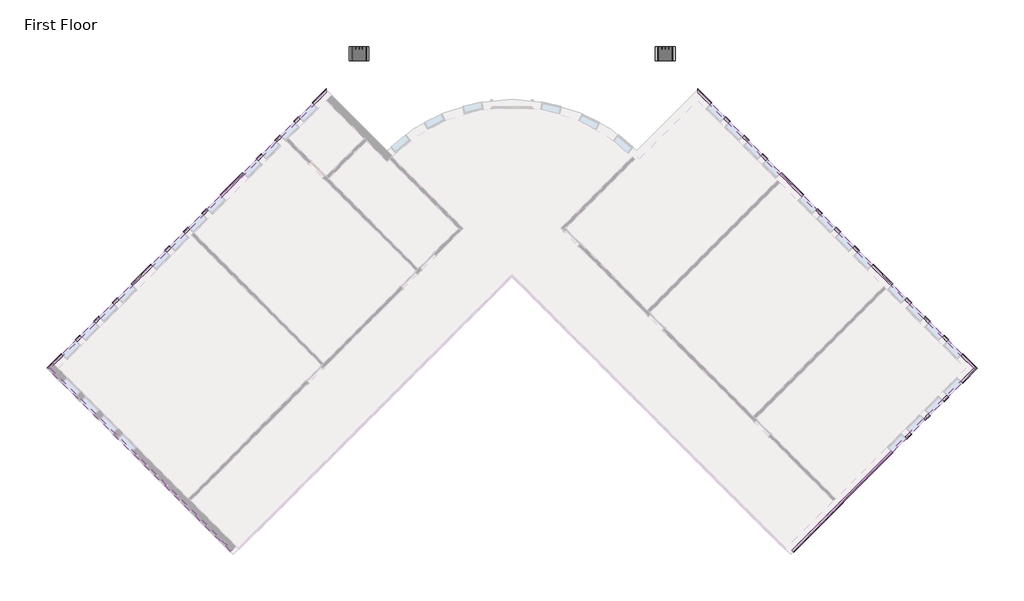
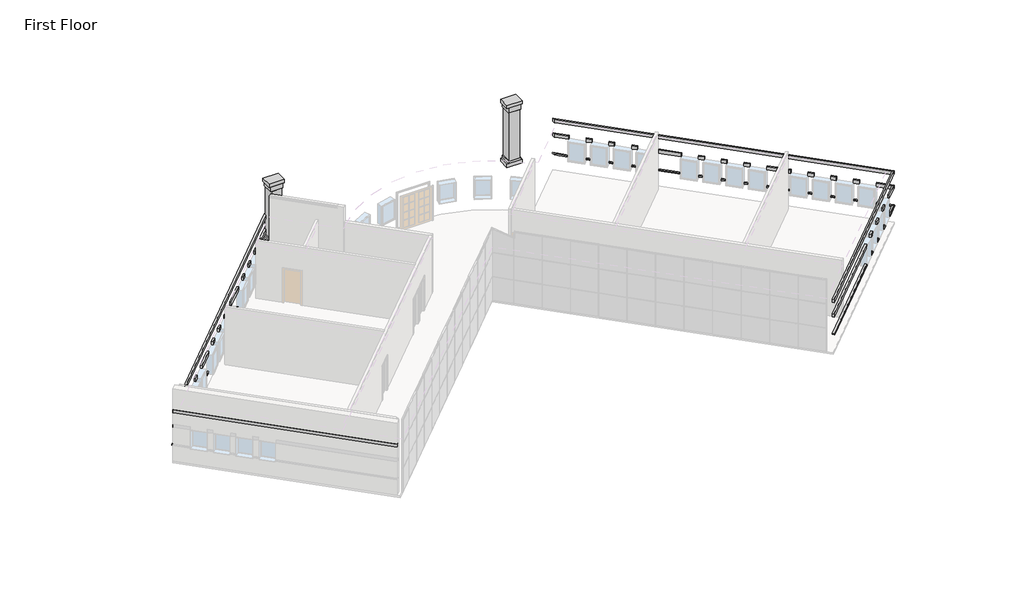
# One storey, part 5 of 5: 12 proxies.
"""IFC4 building model written with IfcOpenShell, lengths in millimetres."""

from ifc_helpers import new_model, si_unit, frame, origin, place, context, project, spatial, polyline, outline, extrude, faceted_brep, transform, mapped, element, save
from components import architecture_column_architecture_column_fcfab19c

model = new_model("IFC4")

# Units and contexts
model_context = context("Model", 3, world=origin())
ifc_project = project(units=[si_unit("LENGTHUNIT", "METRE", prefix="MILLI")], contexts=[model_context])

# Site, building, storey
site = spatial("IfcSite", under=ifc_project)
building = spatial("IfcBuilding", under=site)
storey = spatial("IfcBuildingStorey", under=building, Name="First Floor", Elevation=0.0)

# Proxies
placement = place(None, origin())
element("IfcBuildingElementProxy", 1, Name="Wall Sweeps", at=placement, inside=storey, context=model_context, shape_type="Brep", body=[
    faceted_brep([(5753.0175119, 11443.3655905, 1085.85), (5753.0175119, 11573.5793042, 1085.85), (5753.0175119, 11622.9707129, 1041.4), (5753.0175119, 11622.9707129, 1016.0), (5753.0175119, 11443.3655905, 1016.0), (6317.415551, 10878.9675514, 1085.85), (6317.415551, 10878.9675514, 1016.0), (6382.5224079, 10944.0744083, 1016.0), (6407.2181122, 10968.7701126, 1016.0), (6407.2181122, 10968.7701126, 1041.4), (6382.5224079, 10944.0744083, 1085.85), (5937.1127624, 11259.27034, 1085.85), (5937.1127624, 11259.27034, 1016.0)], [[[0, 1, 2, 3, 4]], [[5, 6, 7, 8, 9, 10]], [[1, 0, 11, 5, 10]], [[2, 1, 10, 9]], [[3, 2, 9, 8]], [[4, 3, 8, 7, 6, 12]], [[0, 4, 12, 6, 5, 11]]]),
    faceted_brep([(6963.9939917, 10232.3891107, 1085.85), (7029.1008486, 10297.4959676, 1085.85), (7053.7965529, 10322.1916719, 1041.4), (7053.7965529, 10322.1916719, 1016.0), (7029.1008486, 10297.4959676, 1016.0), (6963.9939917, 10232.3891107, 1016.0), (7179.5201386, 10016.8629638, 1085.85), (7179.5201386, 10016.8629638, 1016.0), (7244.6269955, 10081.9698207, 1016.0), (7269.3226998, 10106.665525, 1016.0), (7269.3226998, 10106.665525, 1041.4), (7244.6269955, 10081.9698207, 1085.85)], [[[0, 1, 2, 3, 4, 5]], [[6, 7, 8, 9, 10, 11]], [[1, 0, 6, 11]], [[2, 1, 11, 10]], [[3, 2, 10, 9]], [[5, 4, 3, 9, 8, 7]], [[0, 5, 7, 6]]]),
    faceted_brep([(7826.0985793, 9370.2845231, 1085.85), (7891.2054362, 9435.39138, 1085.85), (7915.9011405, 9460.0870843, 1041.4), (7915.9011405, 9460.0870843, 1016.0), (7891.2054362, 9435.39138, 1016.0), (7826.0985793, 9370.2845231, 1016.0), (8041.6247262, 9154.7583762, 1085.85), (8041.6247262, 9154.7583762, 1016.0), (8106.7315831, 9219.8652331, 1016.0), (8131.4272874, 9244.5609374, 1016.0), (8131.4272874, 9244.5609374, 1041.4), (8106.7315831, 9219.8652331, 1085.85)], [[[0, 1, 2, 3, 4, 5]], [[6, 7, 8, 9, 10, 11]], [[1, 0, 6, 11]], [[2, 1, 11, 10]], [[3, 2, 10, 9]], [[5, 4, 3, 9, 8, 7]], [[0, 5, 7, 6]]]),
    faceted_brep([(8688.2031669, 8508.1799355, 1085.85), (8753.3100238, 8573.2867923, 1085.85), (8778.0057282, 8597.9824967, 1041.4), (8778.0057282, 8597.9824967, 1016.0), (8753.3100238, 8573.2867923, 1016.0), (8688.2031669, 8508.1799355, 1016.0), (8903.7293139, 8292.6537886, 1085.85), (8903.7293139, 8292.6537886, 1016.0), (8968.8361707, 8357.7606454, 1016.0), (8993.5318751, 8382.4563498, 1016.0), (8993.5318751, 8382.4563498, 1041.4), (8968.8361707, 8357.7606454, 1085.85)], [[[0, 1, 2, 3, 4, 5]], [[6, 7, 8, 9, 10, 11]], [[1, 0, 6, 11]], [[2, 1, 11, 10]], [[3, 2, 10, 9]], [[5, 4, 3, 9, 8, 7]], [[0, 5, 7, 6]]]),
    faceted_brep([(9550.3077546, 7646.0753478, 1085.85), (9615.4146114, 7711.1822047, 1085.85), (9640.1103158, 7735.877909, 1041.4), (9640.1103158, 7735.877909, 1016.0), (9615.4146114, 7711.1822047, 1016.0), (9550.3077546, 7646.0753478, 1016.0), (10574.7639411, 6621.6191613, 1085.85), (10574.7639411, 6621.6191613, 1016.0), (10639.870798, 6686.7260182, 1016.0), (10664.5665023, 6711.4217225, 1016.0), (10664.5665023, 6711.4217225, 1041.4), (10639.870798, 6686.7260182, 1085.85)], [[[0, 1, 2, 3, 4, 5]], [[6, 7, 8, 9, 10, 11]], [[1, 0, 6, 11]], [[2, 1, 11, 10]], [[3, 2, 10, 9]], [[5, 4, 3, 9, 8, 7]], [[0, 5, 7, 6]]]),
    faceted_brep([(11221.3423818, 5975.0407206, 1085.85), (11286.4492387, 6040.1475775, 1085.85), (11311.144943, 6064.8432818, 1041.4), (11311.144943, 6064.8432818, 1016.0), (11286.4492387, 6040.1475775, 1016.0), (11221.3423818, 5975.0407206, 1016.0), (11436.8685287, 5759.5145737, 1085.85), (11436.8685287, 5759.5145737, 1016.0), (11501.9753856, 5824.6214306, 1016.0), (11526.6710899, 5849.3171349, 1016.0), (11526.6710899, 5849.3171349, 1041.4), (11501.9753856, 5824.6214306, 1085.85)], [[[0, 1, 2, 3, 4, 5]], [[6, 7, 8, 9, 10, 11]], [[1, 0, 6, 11]], [[2, 1, 11, 10]], [[3, 2, 10, 9]], [[5, 4, 3, 9, 8, 7]], [[0, 5, 7, 6]]]),
    faceted_brep([(12083.4469694, 5112.936133, 1085.85), (12148.5538263, 5178.0429899, 1085.85), (12173.2495306, 5202.7386942, 1041.4), (12173.2495306, 5202.7386942, 1016.0), (12148.5538263, 5178.0429899, 1016.0), (12083.4469694, 5112.936133, 1016.0), (12298.9731163, 4897.4099861, 1085.85), (12298.9731163, 4897.4099861, 1016.0), (12364.0799732, 4962.516843, 1016.0), (12388.7756775, 4987.2125473, 1016.0), (12388.7756775, 4987.2125473, 1041.4), (12364.0799732, 4962.516843, 1085.85)], [[[0, 1, 2, 3, 4, 5]], [[6, 7, 8, 9, 10, 11]], [[1, 0, 6, 11]], [[2, 1, 11, 10]], [[3, 2, 10, 9]], [[5, 4, 3, 9, 8, 7]], [[0, 5, 7, 6]]]),
    faceted_brep([(12945.551557, 4250.8315454, 1085.85), (13010.6584139, 4315.9384023, 1085.85), (13035.3541182, 4340.6341066, 1041.4), (13035.3541182, 4340.6341066, 1016.0), (13010.6584139, 4315.9384023, 1016.0), (12945.551557, 4250.8315454, 1016.0), (13161.0777039, 4035.3053985, 1085.85), (13161.0777039, 4035.3053985, 1016.0), (13226.1845608, 4100.4122553, 1016.0), (13250.8802652, 4125.1079597, 1016.0), (13250.8802652, 4125.1079597, 1041.4), (13226.1845608, 4100.4122553, 1085.85)], [[[0, 1, 2, 3, 4, 5]], [[6, 7, 8, 9, 10, 11]], [[1, 0, 6, 11]], [[2, 1, 11, 10]], [[3, 2, 10, 9]], [[5, 4, 3, 9, 8, 7]], [[0, 5, 7, 6]]]),
    faceted_brep([(13807.6561447, 3388.7269578, 1085.85), (13872.7630015, 3453.8338146, 1085.85), (13897.4587059, 3478.529519, 1041.4), (13897.4587059, 3478.529519, 1016.0), (13872.7630015, 3453.8338146, 1016.0), (13807.6561447, 3388.7269578, 1016.0), (14723.1708449, 2473.2122576, 1085.85), (14723.1708449, 2473.2122576, 1016.0), (14788.2777017, 2538.3191144, 1016.0), (14812.9734061, 2563.0148188, 1016.0), (14812.9734061, 2563.0148188, 1041.4), (14788.2777017, 2538.3191144, 1085.85)], [[[0, 1, 2, 3, 4, 5]], [[6, 7, 8, 9, 10, 11]], [[1, 0, 6, 11]], [[2, 1, 11, 10]], [[3, 2, 10, 9]], [[5, 4, 3, 9, 8, 7]], [[0, 5, 7, 6]]]),
    faceted_brep([(15369.7492856, 1826.6338168, 1085.85), (15434.8561424, 1891.7406737, 1085.85), (15459.5518468, 1916.4363781, 1041.4), (15459.5518468, 1916.4363781, 1016.0), (15434.8561424, 1891.7406737, 1016.0), (15369.7492856, 1826.6338168, 1016.0), (15585.2754325, 1611.1076699, 1085.85), (15585.2754325, 1611.1076699, 1016.0), (15650.3822894, 1676.2145268, 1016.0), (15675.0779937, 1700.9102311, 1016.0), (15675.0779937, 1700.9102311, 1041.4), (15650.3822894, 1676.2145268, 1085.85)], [[[0, 1, 2, 3, 4, 5]], [[6, 7, 8, 9, 10, 11]], [[1, 0, 6, 11]], [[2, 1, 11, 10]], [[3, 2, 10, 9]], [[5, 4, 3, 9, 8, 7]], [[0, 5, 7, 6]]]),
    faceted_brep([(16231.8538732, 964.5292292, 1085.85), (16296.9607301, 1029.6360861, 1085.85), (16321.6564344, 1054.3317904, 1041.4), (16321.6564344, 1054.3317904, 1016.0), (16296.9607301, 1029.6360861, 1016.0), (16231.8538732, 964.5292292, 1016.0), (16447.3800201, 749.0030823, 1085.85), (16447.3800201, 749.0030823, 1016.0), (16512.486877, 814.1099392, 1016.0), (16537.1825813, 838.8056435, 1016.0), (16537.1825813, 838.8056435, 1041.4), (16512.486877, 814.1099392, 1085.85)], [[[0, 1, 2, 3, 4, 5]], [[6, 7, 8, 9, 10, 11]], [[1, 0, 6, 11]], [[2, 1, 11, 10]], [[3, 2, 10, 9]], [[5, 4, 3, 9, 8, 7]], [[0, 5, 7, 6]]]),
    faceted_brep([(17093.9584608, 102.4246416, 1085.85), (17159.0653177, 167.5314985, 1085.85), (17183.761022, 192.2272028, 1041.4), (17183.761022, 192.2272028, 1016.0), (17159.0653177, 167.5314985, 1016.0), (17093.9584608, 102.4246416, 1016.0), (17309.4846077, -113.1015053, 1085.85), (17309.4846077, -113.1015053, 1016.0), (17374.5914646, -47.9946484, 1016.0), (17399.2871689, -23.2989441, 1016.0), (17399.2871689, -23.2989441, 1041.4), (17374.5914646, -47.9946484, 1085.85)], [[[0, 1, 2, 3, 4, 5]], [[6, 7, 8, 9, 10, 11]], [[1, 0, 6, 11]], [[2, 1, 11, 10]], [[3, 2, 10, 9]], [[5, 4, 3, 9, 8, 7]], [[0, 5, 7, 6]]]),
    faceted_brep([(17956.0630484, -759.679946, 1085.85), (18021.1699053, -694.5730891, 1085.85), (18045.8656096, -669.8773848, 1041.4), (18045.8656096, -669.8773848, 1016.0), (18021.1699053, -694.5730891, 1016.0), (17956.0630484, -759.679946, 1016.0), (18554.3726125, -1357.9895101, 1085.85), (18554.3726125, -1357.9895101, 1016.0), (18733.9777349, -1357.9895101, 1016.0), (18733.9777349, -1357.9895101, 1041.4), (18684.5863263, -1357.9895101, 1085.85)], [[[0, 1, 2, 3, 4, 5]], [[6, 7, 8, 9, 10]], [[1, 0, 6, 10]], [[2, 1, 10, 9]], [[3, 2, 9, 8]], [[5, 4, 3, 8, 7]], [[0, 5, 7, 6]]]),
])
element("IfcBuildingElementProxy", 2, Name="Wall Sweeps", at=placement, inside=storey, context=model_context, shape_type="Brep", body=[
    faceted_brep([(5753.0175119, 11573.5793042, 2336.8), (5753.0175119, 11573.5793042, 2133.6), (5753.0175119, 11443.3655905, 2133.6), (5753.0175119, 11443.3655905, 2336.8), (6382.5224079, 10944.0744083, 2336.8), (6317.415551, 10878.9675514, 2336.8), (6317.415551, 10878.9675514, 2133.6), (6382.5224079, 10944.0744083, 2133.6), (6002.2196193, 11324.3771969, 2336.8), (6002.2196193, 11324.3771969, 2133.6), (5937.1127624, 11259.27034, 2133.6), (5937.1127624, 11259.27034, 2336.8)], [[[0, 1, 2, 3]], [[4, 5, 6, 7]], [[1, 0, 8, 4, 7, 9]], [[2, 1, 9, 7, 6, 10]], [[3, 2, 10, 6, 5, 11]], [[0, 3, 11, 5, 4, 8]]]),
    faceted_brep([(7029.1008486, 10297.4959676, 2336.8), (7029.1008486, 10297.4959676, 2133.6), (6963.9939917, 10232.3891107, 2133.6), (6963.9939917, 10232.3891107, 2336.8), (7244.6269955, 10081.9698207, 2336.8), (7179.5201386, 10016.8629638, 2336.8), (7179.5201386, 10016.8629638, 2133.6), (7244.6269955, 10081.9698207, 2133.6)], [[[0, 1, 2, 3]], [[4, 5, 6, 7]], [[1, 0, 4, 7]], [[2, 1, 7, 6]], [[3, 2, 6, 5]], [[0, 3, 5, 4]]]),
    faceted_brep([(7891.2054362, 9435.39138, 2336.8), (7891.2054362, 9435.39138, 2133.6), (7826.0985793, 9370.2845231, 2133.6), (7826.0985793, 9370.2845231, 2336.8), (8106.7315831, 9219.8652331, 2336.8), (8041.6247262, 9154.7583762, 2336.8), (8041.6247262, 9154.7583762, 2133.6), (8106.7315831, 9219.8652331, 2133.6)], [[[0, 1, 2, 3]], [[4, 5, 6, 7]], [[1, 0, 4, 7]], [[2, 1, 7, 6]], [[3, 2, 6, 5]], [[0, 3, 5, 4]]]),
    faceted_brep([(8753.3100238, 8573.2867923, 2336.8), (8753.3100238, 8573.2867923, 2133.6), (8688.2031669, 8508.1799355, 2133.6), (8688.2031669, 8508.1799355, 2336.8), (8968.8361707, 8357.7606454, 2336.8), (8903.7293139, 8292.6537886, 2336.8), (8903.7293139, 8292.6537886, 2133.6), (8968.8361707, 8357.7606454, 2133.6)], [[[0, 1, 2, 3]], [[4, 5, 6, 7]], [[1, 0, 4, 7]], [[2, 1, 7, 6]], [[3, 2, 6, 5]], [[0, 3, 5, 4]]]),
    faceted_brep([(9615.4146114, 7711.1822047, 2336.8), (9615.4146114, 7711.1822047, 2133.6), (9550.3077546, 7646.0753478, 2133.6), (9550.3077546, 7646.0753478, 2336.8), (10639.870798, 6686.7260182, 2336.8), (10574.7639411, 6621.6191613, 2336.8), (10574.7639411, 6621.6191613, 2133.6), (10639.870798, 6686.7260182, 2133.6)], [[[0, 1, 2, 3]], [[4, 5, 6, 7]], [[1, 0, 4, 7]], [[2, 1, 7, 6]], [[3, 2, 6, 5]], [[0, 3, 5, 4]]]),
    faceted_brep([(11286.4492387, 6040.1475775, 2336.8), (11286.4492387, 6040.1475775, 2133.6), (11221.3423818, 5975.0407206, 2133.6), (11221.3423818, 5975.0407206, 2336.8), (11501.9753856, 5824.6214306, 2336.8), (11436.8685287, 5759.5145737, 2336.8), (11436.8685287, 5759.5145737, 2133.6), (11501.9753856, 5824.6214306, 2133.6)], [[[0, 1, 2, 3]], [[4, 5, 6, 7]], [[1, 0, 4, 7]], [[2, 1, 7, 6]], [[3, 2, 6, 5]], [[0, 3, 5, 4]]]),
    faceted_brep([(12148.5538263, 5178.0429899, 2336.8), (12148.5538263, 5178.0429899, 2133.6), (12083.4469694, 5112.936133, 2133.6), (12083.4469694, 5112.936133, 2336.8), (12364.0799732, 4962.516843, 2336.8), (12298.9731163, 4897.4099861, 2336.8), (12298.9731163, 4897.4099861, 2133.6), (12364.0799732, 4962.516843, 2133.6)], [[[0, 1, 2, 3]], [[4, 5, 6, 7]], [[1, 0, 4, 7]], [[2, 1, 7, 6]], [[3, 2, 6, 5]], [[0, 3, 5, 4]]]),
    faceted_brep([(13010.6584139, 4315.9384023, 2336.8), (13010.6584139, 4315.9384023, 2133.6), (12945.551557, 4250.8315454, 2133.6), (12945.551557, 4250.8315454, 2336.8), (13226.1845608, 4100.4122553, 2336.8), (13161.0777039, 4035.3053985, 2336.8), (13161.0777039, 4035.3053985, 2133.6), (13226.1845608, 4100.4122553, 2133.6)], [[[0, 1, 2, 3]], [[4, 5, 6, 7]], [[1, 0, 4, 7]], [[2, 1, 7, 6]], [[3, 2, 6, 5]], [[0, 3, 5, 4]]]),
    faceted_brep([(13872.7630015, 3453.8338146, 2336.8), (13872.7630015, 3453.8338146, 2133.6), (13807.6561447, 3388.7269578, 2133.6), (13807.6561447, 3388.7269578, 2336.8), (14788.2777017, 2538.3191144, 2336.8), (14723.1708449, 2473.2122576, 2336.8), (14723.1708449, 2473.2122576, 2133.6), (14788.2777017, 2538.3191144, 2133.6)], [[[0, 1, 2, 3]], [[4, 5, 6, 7]], [[1, 0, 4, 7]], [[2, 1, 7, 6]], [[3, 2, 6, 5]], [[0, 3, 5, 4]]]),
    faceted_brep([(15434.8561424, 1891.7406737, 2336.8), (15434.8561424, 1891.7406737, 2133.6), (15369.7492856, 1826.6338168, 2133.6), (15369.7492856, 1826.6338168, 2336.8), (15650.3822894, 1676.2145268, 2336.8), (15585.2754325, 1611.1076699, 2336.8), (15585.2754325, 1611.1076699, 2133.6), (15650.3822894, 1676.2145268, 2133.6)], [[[0, 1, 2, 3]], [[4, 5, 6, 7]], [[1, 0, 4, 7]], [[2, 1, 7, 6]], [[3, 2, 6, 5]], [[0, 3, 5, 4]]]),
    faceted_brep([(16296.9607301, 1029.6360861, 2336.8), (16296.9607301, 1029.6360861, 2133.6), (16231.8538732, 964.5292292, 2133.6), (16231.8538732, 964.5292292, 2336.8), (16512.486877, 814.1099392, 2336.8), (16447.3800201, 749.0030823, 2336.8), (16447.3800201, 749.0030823, 2133.6), (16512.486877, 814.1099392, 2133.6)], [[[0, 1, 2, 3]], [[4, 5, 6, 7]], [[1, 0, 4, 7]], [[2, 1, 7, 6]], [[3, 2, 6, 5]], [[0, 3, 5, 4]]]),
    faceted_brep([(17159.0653177, 167.5314985, 2336.8), (17159.0653177, 167.5314985, 2133.6), (17093.9584608, 102.4246416, 2133.6), (17093.9584608, 102.4246416, 2336.8), (17374.5914646, -47.9946484, 2336.8), (17309.4846077, -113.1015053, 2336.8), (17309.4846077, -113.1015053, 2133.6), (17374.5914646, -47.9946484, 2133.6)], [[[0, 1, 2, 3]], [[4, 5, 6, 7]], [[1, 0, 4, 7]], [[2, 1, 7, 6]], [[3, 2, 6, 5]], [[0, 3, 5, 4]]]),
    faceted_brep([(18021.1699053, -694.5730891, 2336.8), (18021.1699053, -694.5730891, 2133.6), (17956.0630484, -759.679946, 2133.6), (17956.0630484, -759.679946, 2336.8), (18684.5863263, -1357.9895101, 2336.8), (18554.3726125, -1357.9895101, 2336.8), (18554.3726125, -1357.9895101, 2133.6), (18684.5863263, -1357.9895101, 2133.6)], [[[0, 1, 2, 3]], [[4, 5, 6, 7]], [[1, 0, 4, 7]], [[2, 1, 7, 6]], [[3, 2, 6, 5]], [[0, 3, 5, 4]]]),
])
element("IfcBuildingElementProxy", 3, Name="Wall Sweeps", at=placement, inside=storey, context=model_context, shape_type="Brep", body=[
    faceted_brep([(5753.0175119, 11573.5793042, 3251.2), (5753.0175119, 11573.5793042, 3048.0), (5753.0175119, 11443.3655905, 3048.0), (5753.0175119, 11443.3655905, 3251.2), (18684.5863263, -1357.9895101, 3251.2), (18554.3726125, -1357.9895101, 3251.2), (18554.3726125, -1357.9895101, 3048.0), (18684.5863263, -1357.9895101, 3048.0), (6002.2196193, 11324.3771969, 3251.2), (6002.2196193, 11324.3771969, 3048.0), (5937.1127624, 11259.27034, 3048.0), (5937.1127624, 11259.27034, 3251.2)], [[[0, 1, 2, 3]], [[4, 5, 6, 7]], [[1, 0, 8, 4, 7, 9]], [[2, 1, 9, 7, 6, 10]], [[3, 2, 10, 6, 5, 11]], [[0, 3, 11, 5, 4, 8]]]),
])
element("IfcBuildingElementProxy", 4, Name="Wall Sweeps", at=placement, inside=storey, context=model_context, shape_type="Brep", body=[
    faceted_brep([(18554.3726125, -1357.9895101, 1085.85), (18684.5863263, -1357.9895101, 1085.85), (18733.9777349, -1357.9895101, 1041.4), (18733.9777349, -1357.9895101, 1016.0), (18554.3726125, -1357.9895101, 1016.0), (17956.0630484, -1956.2990742, 1085.85), (17956.0630484, -1956.2990742, 1016.0), (18021.1699053, -2021.405931, 1016.0), (18045.8656096, -2046.1016354, 1016.0), (18045.8656096, -2046.1016354, 1041.4), (18021.1699053, -2021.405931, 1085.85), (18370.277362, -1542.0847606, 1085.85), (18370.277362, -1542.0847606, 1016.0)], [[[0, 1, 2, 3, 4]], [[5, 6, 7, 8, 9, 10]], [[1, 0, 11, 5, 10]], [[2, 1, 10, 9]], [[3, 2, 9, 8]], [[4, 3, 8, 7, 6, 12]], [[0, 4, 12, 6, 5, 11]]]),
    faceted_brep([(17309.4846077, -2602.8775149, 1085.85), (17374.5914646, -2667.9843718, 1085.85), (17399.2871689, -2692.6800761, 1041.4), (17399.2871689, -2692.6800761, 1016.0), (17374.5914646, -2667.9843718, 1016.0), (17309.4846077, -2602.8775149, 1016.0), (17093.9584608, -2818.4036618, 1085.85), (17093.9584608, -2818.4036618, 1016.0), (17159.0653177, -2883.5105187, 1016.0), (17183.761022, -2908.206223, 1016.0), (17183.761022, -2908.206223, 1041.4), (17159.0653177, -2883.5105187, 1085.85)], [[[0, 1, 2, 3, 4, 5]], [[6, 7, 8, 9, 10, 11]], [[1, 0, 6, 11]], [[2, 1, 11, 10]], [[3, 2, 10, 9]], [[5, 4, 3, 9, 8, 7]], [[0, 5, 7, 6]]]),
    faceted_brep([(16447.3800201, -3464.9821025, 1085.85), (16512.486877, -3530.0889594, 1085.85), (16537.1825813, -3554.7846637, 1041.4), (16537.1825813, -3554.7846637, 1016.0), (16512.486877, -3530.0889594, 1016.0), (16447.3800201, -3464.9821025, 1016.0), (16231.8538732, -3680.5082494, 1085.85), (16231.8538732, -3680.5082494, 1016.0), (16296.9607301, -3745.6151063, 1016.0), (16321.6564344, -3770.3108106, 1016.0), (16321.6564344, -3770.3108106, 1041.4), (16296.9607301, -3745.6151063, 1085.85)], [[[0, 1, 2, 3, 4, 5]], [[6, 7, 8, 9, 10, 11]], [[1, 0, 6, 11]], [[2, 1, 11, 10]], [[3, 2, 10, 9]], [[5, 4, 3, 9, 8, 7]], [[0, 5, 7, 6]]]),
    faceted_brep([(15585.2754325, -4327.0866901, 1085.85), (15650.3822894, -4392.193547, 1085.85), (15675.0779937, -4416.8892513, 1041.4), (15675.0779937, -4416.8892513, 1016.0), (15650.3822894, -4392.193547, 1016.0), (15585.2754325, -4327.0866901, 1016.0), (15369.7492856, -4542.612837, 1085.85), (15369.7492856, -4542.612837, 1016.0), (15434.8561424, -4607.7196939, 1016.0), (15459.5518468, -4632.4153982, 1016.0), (15459.5518468, -4632.4153982, 1041.4), (15434.8561424, -4607.7196939, 1085.85)], [[[0, 1, 2, 3, 4, 5]], [[6, 7, 8, 9, 10, 11]], [[1, 0, 6, 11]], [[2, 1, 11, 10]], [[3, 2, 10, 9]], [[5, 4, 3, 9, 8, 7]], [[0, 5, 7, 6]]]),
    faceted_brep([(14723.1708449, -5189.1912777, 1085.85), (14788.2777017, -5254.2981346, 1085.85), (14812.9734061, -5278.993839, 1041.4), (14812.9734061, -5278.993839, 1016.0), (14788.2777017, -5254.2981346, 1016.0), (14723.1708449, -5189.1912777, 1016.0), (10123.0346468, -9789.3274758, 1085.85), (10123.0346468, -9789.3274758, 1016.0), (10188.1415037, -9854.4343326, 1016.0), (10212.837208, -9879.130037, 1016.0), (10212.837208, -9879.130037, 1041.4), (10188.1415037, -9854.4343326, 1085.85)], [[[0, 1, 2, 3, 4, 5]], [[6, 7, 8, 9, 10, 11]], [[1, 0, 6, 11]], [[2, 1, 11, 10]], [[3, 2, 10, 9]], [[5, 4, 3, 9, 8, 7]], [[0, 5, 7, 6]]]),
])
element("IfcBuildingElementProxy", 5, Name="Wall Sweeps", at=placement, inside=storey, context=model_context, shape_type="Brep", body=[
    faceted_brep([(18684.5863263, -1357.9895101, 2336.8), (18684.5863263, -1357.9895101, 2133.6), (18554.3726125, -1357.9895101, 2133.6), (18554.3726125, -1357.9895101, 2336.8), (18021.1699053, -2021.405931, 2336.8), (17956.0630484, -1956.2990742, 2336.8), (17956.0630484, -1956.2990742, 2133.6), (18021.1699053, -2021.405931, 2133.6), (18435.3842189, -1607.1916175, 2336.8), (18435.3842189, -1607.1916175, 2133.6), (18370.277362, -1542.0847606, 2133.6), (18370.277362, -1542.0847606, 2336.8)], [[[0, 1, 2, 3]], [[4, 5, 6, 7]], [[1, 0, 8, 4, 7, 9]], [[2, 1, 9, 7, 6, 10]], [[3, 2, 10, 6, 5, 11]], [[0, 3, 11, 5, 4, 8]]]),
    faceted_brep([(17374.5914646, -2667.9843718, 2336.8), (17374.5914646, -2667.9843718, 2133.6), (17309.4846077, -2602.8775149, 2133.6), (17309.4846077, -2602.8775149, 2336.8), (17159.0653177, -2883.5105187, 2336.8), (17093.9584608, -2818.4036618, 2336.8), (17093.9584608, -2818.4036618, 2133.6), (17159.0653177, -2883.5105187, 2133.6)], [[[0, 1, 2, 3]], [[4, 5, 6, 7]], [[1, 0, 4, 7]], [[2, 1, 7, 6]], [[3, 2, 6, 5]], [[0, 3, 5, 4]]]),
    faceted_brep([(16512.486877, -3530.0889594, 2336.8), (16512.486877, -3530.0889594, 2133.6), (16447.3800201, -3464.9821025, 2133.6), (16447.3800201, -3464.9821025, 2336.8), (16296.9607301, -3745.6151063, 2336.8), (16231.8538732, -3680.5082494, 2336.8), (16231.8538732, -3680.5082494, 2133.6), (16296.9607301, -3745.6151063, 2133.6)], [[[0, 1, 2, 3]], [[4, 5, 6, 7]], [[1, 0, 4, 7]], [[2, 1, 7, 6]], [[3, 2, 6, 5]], [[0, 3, 5, 4]]]),
    faceted_brep([(15650.3822894, -4392.193547, 2336.8), (15650.3822894, -4392.193547, 2133.6), (15585.2754325, -4327.0866901, 2133.6), (15585.2754325, -4327.0866901, 2336.8), (15434.8561424, -4607.7196939, 2336.8), (15369.7492856, -4542.612837, 2336.8), (15369.7492856, -4542.612837, 2133.6), (15434.8561424, -4607.7196939, 2133.6)], [[[0, 1, 2, 3]], [[4, 5, 6, 7]], [[1, 0, 4, 7]], [[2, 1, 7, 6]], [[3, 2, 6, 5]], [[0, 3, 5, 4]]]),
    faceted_brep([(14788.2777017, -5254.2981346, 2336.8), (14788.2777017, -5254.2981346, 2133.6), (14723.1708449, -5189.1912777, 2133.6), (14723.1708449, -5189.1912777, 2336.8), (10188.1415037, -9854.4343326, 2336.8), (10123.0346468, -9789.3274758, 2336.8), (10123.0346468, -9789.3274758, 2133.6), (10188.1415037, -9854.4343326, 2133.6)], [[[0, 1, 2, 3]], [[4, 5, 6, 7]], [[1, 0, 4, 7]], [[2, 1, 7, 6]], [[3, 2, 6, 5]], [[0, 3, 5, 4]]]),
])
element("IfcBuildingElementProxy", 6, Name="Wall Sweeps", at=placement, inside=storey, context=model_context, shape_type="Brep", body=[
    faceted_brep([(18684.5863263, -1357.9895101, 3251.2), (18684.5863263, -1357.9895101, 3048.0), (18554.3726125, -1357.9895101, 3048.0), (18554.3726125, -1357.9895101, 3251.2), (10188.1415037, -9854.4343326, 3251.2), (10123.0346468, -9789.3274758, 3251.2), (10123.0346468, -9789.3274758, 3048.0), (10188.1415037, -9854.4343326, 3048.0), (18435.3842189, -1607.1916175, 3251.2), (18435.3842189, -1607.1916175, 3048.0), (18370.277362, -1542.0847606, 3048.0), (18370.277362, -1542.0847606, 3251.2)], [[[0, 1, 2, 3]], [[4, 5, 6, 7]], [[1, 0, 8, 4, 7, 9]], [[2, 1, 9, 7, 6, 10]], [[3, 2, 10, 6, 5, 11]], [[0, 3, 11, 5, 4, 8]]]),
])
element("IfcBuildingElementProxy", 7, Name="Wall Sweeps", at=placement, inside=storey, context=model_context, shape_type="SweptSolid", body=[
    extrude(outline(polyline([(-15859.0913754, -9789.3274758), (-15924.1982323, -9854.4343326), (-24420.6430549, -1357.9895101), (-24290.4293411, -1357.9895101), (-15859.0913754, -9789.3274758)])), frame((0.0, 0.0, 3048.0), z_axis=(0.0, 0.0, 1.0), x_axis=(1.0, 0.0, 0.0)), (0.0, 0.0, 1.0), 203.2),
])
element("IfcBuildingElementProxy", 8, Name="Wall Sweeps", at=placement, inside=storey, context=model_context, shape_type="Brep", body=[
    faceted_brep([(-24290.4293411, -1357.9895101, 1085.85), (-24420.6430549, -1357.9895101, 1085.85), (-24470.0344635, -1357.9895101, 1041.4), (-24470.0344635, -1357.9895101, 1016.0), (-24290.4293411, -1357.9895101, 1016.0), (-23692.119777, -759.679946, 1085.85), (-23692.119777, -759.679946, 1016.0), (-23757.2266339, -694.5730891, 1016.0), (-23781.9223383, -669.8773848, 1016.0), (-23781.9223383, -669.8773848, 1041.4), (-23757.2266339, -694.5730891, 1085.85), (-24106.3340906, -1173.8942596, 1085.85), (-24106.3340906, -1173.8942596, 1016.0)], [[[0, 1, 2, 3, 4]], [[5, 6, 7, 8, 9, 10]], [[1, 0, 11, 5, 10]], [[2, 1, 10, 9]], [[3, 2, 9, 8]], [[4, 3, 8, 7, 6, 12]], [[0, 4, 12, 6, 5, 11]]]),
    faceted_brep([(-23045.5413363, -113.1015053, 1085.85), (-23110.6481932, -47.9946484, 1085.85), (-23135.3438975, -23.2989441, 1041.4), (-23135.3438975, -23.2989441, 1016.0), (-23110.6481932, -47.9946484, 1016.0), (-23045.5413363, -113.1015053, 1016.0), (-22830.0151894, 102.4246416, 1085.85), (-22830.0151894, 102.4246416, 1016.0), (-22895.1220463, 167.5314985, 1016.0), (-22919.8177506, 192.2272028, 1016.0), (-22919.8177506, 192.2272028, 1041.4), (-22895.1220463, 167.5314985, 1085.85)], [[[0, 1, 2, 3, 4, 5]], [[6, 7, 8, 9, 10, 11]], [[1, 0, 6, 11]], [[2, 1, 11, 10]], [[3, 2, 10, 9]], [[5, 4, 3, 9, 8, 7]], [[0, 5, 7, 6]]]),
    faceted_brep([(-22183.4367487, 749.0030823, 1085.85), (-22248.5436056, 814.1099392, 1085.85), (-22273.2393099, 838.8056435, 1041.4), (-22273.2393099, 838.8056435, 1016.0), (-22248.5436056, 814.1099392, 1016.0), (-22183.4367487, 749.0030823, 1016.0), (-21967.9106018, 964.5292292, 1085.85), (-21967.9106018, 964.5292292, 1016.0), (-22033.0174587, 1029.6360861, 1016.0), (-22057.713163, 1054.3317904, 1016.0), (-22057.713163, 1054.3317904, 1041.4), (-22033.0174587, 1029.6360861, 1085.85)], [[[0, 1, 2, 3, 4, 5]], [[6, 7, 8, 9, 10, 11]], [[1, 0, 6, 11]], [[2, 1, 11, 10]], [[3, 2, 10, 9]], [[5, 4, 3, 9, 8, 7]], [[0, 5, 7, 6]]]),
    faceted_brep([(-21321.3321611, 1611.1076699, 1085.85), (-21386.439018, 1676.2145268, 1085.85), (-21411.1347223, 1700.9102311, 1041.4), (-21411.1347223, 1700.9102311, 1016.0), (-21386.439018, 1676.2145268, 1016.0), (-21321.3321611, 1611.1076699, 1016.0), (-21105.8060142, 1826.6338168, 1085.85), (-21105.8060142, 1826.6338168, 1016.0), (-21170.9128711, 1891.7406737, 1016.0), (-21195.6085754, 1916.4363781, 1016.0), (-21195.6085754, 1916.4363781, 1041.4), (-21170.9128711, 1891.7406737, 1085.85)], [[[0, 1, 2, 3, 4, 5]], [[6, 7, 8, 9, 10, 11]], [[1, 0, 6, 11]], [[2, 1, 11, 10]], [[3, 2, 10, 9]], [[5, 4, 3, 9, 8, 7]], [[0, 5, 7, 6]]]),
    faceted_brep([(-20459.2275735, 2473.2122576, 1085.85), (-20524.3344303, 2538.3191144, 1085.85), (-20549.0301347, 2563.0148188, 1041.4), (-20549.0301347, 2563.0148188, 1016.0), (-20524.3344303, 2538.3191144, 1016.0), (-20459.2275735, 2473.2122576, 1016.0), (-19543.7128733, 3388.7269578, 1085.85), (-19543.7128733, 3388.7269578, 1016.0), (-19608.8197301, 3453.8338146, 1016.0), (-19633.5154345, 3478.529519, 1016.0), (-19633.5154345, 3478.529519, 1041.4), (-19608.8197301, 3453.8338146, 1085.85)], [[[0, 1, 2, 3, 4, 5]], [[6, 7, 8, 9, 10, 11]], [[1, 0, 6, 11]], [[2, 1, 11, 10]], [[3, 2, 10, 9]], [[5, 4, 3, 9, 8, 7]], [[0, 5, 7, 6]]]),
    faceted_brep([(-18897.1344326, 4035.3053985, 1085.85), (-18962.2412894, 4100.4122553, 1085.85), (-18986.9369938, 4125.1079597, 1041.4), (-18986.9369938, 4125.1079597, 1016.0), (-18962.2412894, 4100.4122553, 1016.0), (-18897.1344326, 4035.3053985, 1016.0), (-18681.6082856, 4250.8315454, 1085.85), (-18681.6082856, 4250.8315454, 1016.0), (-18746.7151425, 4315.9384023, 1016.0), (-18771.4108469, 4340.6341066, 1016.0), (-18771.4108469, 4340.6341066, 1041.4), (-18746.7151425, 4315.9384023, 1085.85)], [[[0, 1, 2, 3, 4, 5]], [[6, 7, 8, 9, 10, 11]], [[1, 0, 6, 11]], [[2, 1, 11, 10]], [[3, 2, 10, 9]], [[5, 4, 3, 9, 8, 7]], [[0, 5, 7, 6]]]),
    faceted_brep([(-18035.0298449, 4897.4099861, 1085.85), (-18100.1367018, 4962.516843, 1085.85), (-18124.8324061, 4987.2125473, 1041.4), (-18124.8324061, 4987.2125473, 1016.0), (-18100.1367018, 4962.516843, 1016.0), (-18035.0298449, 4897.4099861, 1016.0), (-17819.503698, 5112.936133, 1085.85), (-17819.503698, 5112.936133, 1016.0), (-17884.6105549, 5178.0429899, 1016.0), (-17909.3062592, 5202.7386942, 1016.0), (-17909.3062592, 5202.7386942, 1041.4), (-17884.6105549, 5178.0429899, 1085.85)], [[[0, 1, 2, 3, 4, 5]], [[6, 7, 8, 9, 10, 11]], [[1, 0, 6, 11]], [[2, 1, 11, 10]], [[3, 2, 10, 9]], [[5, 4, 3, 9, 8, 7]], [[0, 5, 7, 6]]]),
    faceted_brep([(-17172.9252573, 5759.5145737, 1085.85), (-17238.0321142, 5824.6214306, 1085.85), (-17262.7278185, 5849.3171349, 1041.4), (-17262.7278185, 5849.3171349, 1016.0), (-17238.0321142, 5824.6214306, 1016.0), (-17172.9252573, 5759.5145737, 1016.0), (-16957.3991104, 5975.0407206, 1085.85), (-16957.3991104, 5975.0407206, 1016.0), (-17022.5059673, 6040.1475775, 1016.0), (-17047.2016716, 6064.8432818, 1016.0), (-17047.2016716, 6064.8432818, 1041.4), (-17022.5059673, 6040.1475775, 1085.85)], [[[0, 1, 2, 3, 4, 5]], [[6, 7, 8, 9, 10, 11]], [[1, 0, 6, 11]], [[2, 1, 11, 10]], [[3, 2, 10, 9]], [[5, 4, 3, 9, 8, 7]], [[0, 5, 7, 6]]]),
    faceted_brep([(-16310.8206697, 6621.6191613, 1085.85), (-16375.9275266, 6686.7260182, 1085.85), (-16400.6232309, 6711.4217225, 1041.4), (-16400.6232309, 6711.4217225, 1016.0), (-16375.9275266, 6686.7260182, 1016.0), (-16310.8206697, 6621.6191613, 1016.0), (-15286.3644832, 7646.0753478, 1085.85), (-15286.3644832, 7646.0753478, 1016.0), (-15351.4713401, 7711.1822047, 1016.0), (-15376.1670444, 7735.877909, 1016.0), (-15376.1670444, 7735.877909, 1041.4), (-15351.4713401, 7711.1822047, 1085.85)], [[[0, 1, 2, 3, 4, 5]], [[6, 7, 8, 9, 10, 11]], [[1, 0, 6, 11]], [[2, 1, 11, 10]], [[3, 2, 10, 9]], [[5, 4, 3, 9, 8, 7]], [[0, 5, 7, 6]]]),
    faceted_brep([(-14639.7860425, 8292.6537886, 1085.85), (-14704.8928993, 8357.7606454, 1085.85), (-14729.5886037, 8382.4563498, 1041.4), (-14729.5886037, 8382.4563498, 1016.0), (-14704.8928993, 8357.7606454, 1016.0), (-14639.7860425, 8292.6537886, 1016.0), (-14424.2598956, 8508.1799355, 1085.85), (-14424.2598956, 8508.1799355, 1016.0), (-14489.3667524, 8573.2867923, 1016.0), (-14514.0624568, 8597.9824967, 1016.0), (-14514.0624568, 8597.9824967, 1041.4), (-14489.3667524, 8573.2867923, 1085.85)], [[[0, 1, 2, 3, 4, 5]], [[6, 7, 8, 9, 10, 11]], [[1, 0, 6, 11]], [[2, 1, 11, 10]], [[3, 2, 10, 9]], [[5, 4, 3, 9, 8, 7]], [[0, 5, 7, 6]]]),
    faceted_brep([(-13777.6814548, 9154.7583762, 1085.85), (-13842.7883117, 9219.8652331, 1085.85), (-13867.4840161, 9244.5609374, 1041.4), (-13867.4840161, 9244.5609374, 1016.0), (-13842.7883117, 9219.8652331, 1016.0), (-13777.6814548, 9154.7583762, 1016.0), (-13562.1553079, 9370.2845231, 1085.85), (-13562.1553079, 9370.2845231, 1016.0), (-13627.2621648, 9435.39138, 1016.0), (-13651.9578691, 9460.0870843, 1016.0), (-13651.9578691, 9460.0870843, 1041.4), (-13627.2621648, 9435.39138, 1085.85)], [[[0, 1, 2, 3, 4, 5]], [[6, 7, 8, 9, 10, 11]], [[1, 0, 6, 11]], [[2, 1, 11, 10]], [[3, 2, 10, 9]], [[5, 4, 3, 9, 8, 7]], [[0, 5, 7, 6]]]),
    faceted_brep([(-12915.5768672, 10016.8629638, 1085.85), (-12980.6837241, 10081.9698207, 1085.85), (-13005.3794284, 10106.665525, 1041.4), (-13005.3794284, 10106.665525, 1016.0), (-12980.6837241, 10081.9698207, 1016.0), (-12915.5768672, 10016.8629638, 1016.0), (-12700.0507203, 10232.3891107, 1085.85), (-12700.0507203, 10232.3891107, 1016.0), (-12765.1575772, 10297.4959676, 1016.0), (-12789.8532815, 10322.1916719, 1016.0), (-12789.8532815, 10322.1916719, 1041.4), (-12765.1575772, 10297.4959676, 1085.85)], [[[0, 1, 2, 3, 4, 5]], [[6, 7, 8, 9, 10, 11]], [[1, 0, 6, 11]], [[2, 1, 11, 10]], [[3, 2, 10, 9]], [[5, 4, 3, 9, 8, 7]], [[0, 5, 7, 6]]]),
    faceted_brep([(-12053.4722796, 10878.9675514, 1085.85), (-12118.5791365, 10944.0744083, 1085.85), (-12143.2748408, 10968.7701126, 1041.4), (-12143.2748408, 10968.7701126, 1016.0), (-12118.5791365, 10944.0744083, 1016.0), (-12053.4722796, 10878.9675514, 1016.0), (-11489.0742405, 11443.3655905, 1085.85), (-11489.0742405, 11443.3655905, 1016.0), (-11489.0742405, 11622.9707129, 1016.0), (-11489.0742405, 11622.9707129, 1041.4), (-11489.0742405, 11573.5793042, 1085.85)], [[[0, 1, 2, 3, 4, 5]], [[6, 7, 8, 9, 10]], [[1, 0, 6, 10]], [[2, 1, 10, 9]], [[3, 2, 9, 8]], [[5, 4, 3, 8, 7]], [[0, 5, 7, 6]]]),
])
element("IfcBuildingElementProxy", 9, Name="Wall Sweeps", at=placement, inside=storey, context=model_context, shape_type="Brep", body=[
    faceted_brep([(-24420.6430549, -1357.9895101, 2336.8), (-24420.6430549, -1357.9895101, 2133.6), (-24290.4293411, -1357.9895101, 2133.6), (-24290.4293411, -1357.9895101, 2336.8), (-23757.2266339, -694.5730891, 2336.8), (-23692.119777, -759.679946, 2336.8), (-23692.119777, -759.679946, 2133.6), (-23757.2266339, -694.5730891, 2133.6), (-24171.4409475, -1108.7874027, 2336.8), (-24171.4409475, -1108.7874027, 2133.6), (-24106.3340906, -1173.8942596, 2133.6), (-24106.3340906, -1173.8942596, 2336.8)], [[[0, 1, 2, 3]], [[4, 5, 6, 7]], [[1, 0, 8, 4, 7, 9]], [[2, 1, 9, 7, 6, 10]], [[3, 2, 10, 6, 5, 11]], [[0, 3, 11, 5, 4, 8]]]),
    faceted_brep([(-23110.6481932, -47.9946484, 2336.8), (-23110.6481932, -47.9946484, 2133.6), (-23045.5413363, -113.1015053, 2133.6), (-23045.5413363, -113.1015053, 2336.8), (-22895.1220463, 167.5314985, 2336.8), (-22830.0151894, 102.4246416, 2336.8), (-22830.0151894, 102.4246416, 2133.6), (-22895.1220463, 167.5314985, 2133.6)], [[[0, 1, 2, 3]], [[4, 5, 6, 7]], [[1, 0, 4, 7]], [[2, 1, 7, 6]], [[3, 2, 6, 5]], [[0, 3, 5, 4]]]),
    faceted_brep([(-22248.5436056, 814.1099392, 2336.8), (-22248.5436056, 814.1099392, 2133.6), (-22183.4367487, 749.0030823, 2133.6), (-22183.4367487, 749.0030823, 2336.8), (-22033.0174587, 1029.6360861, 2336.8), (-21967.9106018, 964.5292292, 2336.8), (-21967.9106018, 964.5292292, 2133.6), (-22033.0174587, 1029.6360861, 2133.6)], [[[0, 1, 2, 3]], [[4, 5, 6, 7]], [[1, 0, 4, 7]], [[2, 1, 7, 6]], [[3, 2, 6, 5]], [[0, 3, 5, 4]]]),
    faceted_brep([(-21386.439018, 1676.2145268, 2336.8), (-21386.439018, 1676.2145268, 2133.6), (-21321.3321611, 1611.1076699, 2133.6), (-21321.3321611, 1611.1076699, 2336.8), (-21170.9128711, 1891.7406737, 2336.8), (-21105.8060142, 1826.6338168, 2336.8), (-21105.8060142, 1826.6338168, 2133.6), (-21170.9128711, 1891.7406737, 2133.6)], [[[0, 1, 2, 3]], [[4, 5, 6, 7]], [[1, 0, 4, 7]], [[2, 1, 7, 6]], [[3, 2, 6, 5]], [[0, 3, 5, 4]]]),
    faceted_brep([(-20524.3344303, 2538.3191144, 2336.8), (-20524.3344303, 2538.3191144, 2133.6), (-20459.2275735, 2473.2122576, 2133.6), (-20459.2275735, 2473.2122576, 2336.8), (-19608.8197301, 3453.8338146, 2336.8), (-19543.7128733, 3388.7269578, 2336.8), (-19543.7128733, 3388.7269578, 2133.6), (-19608.8197301, 3453.8338146, 2133.6)], [[[0, 1, 2, 3]], [[4, 5, 6, 7]], [[1, 0, 4, 7]], [[2, 1, 7, 6]], [[3, 2, 6, 5]], [[0, 3, 5, 4]]]),
    faceted_brep([(-18962.2412894, 4100.4122553, 2336.8), (-18962.2412894, 4100.4122553, 2133.6), (-18897.1344326, 4035.3053985, 2133.6), (-18897.1344326, 4035.3053985, 2336.8), (-18746.7151425, 4315.9384023, 2336.8), (-18681.6082856, 4250.8315454, 2336.8), (-18681.6082856, 4250.8315454, 2133.6), (-18746.7151425, 4315.9384023, 2133.6)], [[[0, 1, 2, 3]], [[4, 5, 6, 7]], [[1, 0, 4, 7]], [[2, 1, 7, 6]], [[3, 2, 6, 5]], [[0, 3, 5, 4]]]),
    faceted_brep([(-18100.1367018, 4962.516843, 2336.8), (-18100.1367018, 4962.516843, 2133.6), (-18035.0298449, 4897.4099861, 2133.6), (-18035.0298449, 4897.4099861, 2336.8), (-17884.6105549, 5178.0429899, 2336.8), (-17819.503698, 5112.936133, 2336.8), (-17819.503698, 5112.936133, 2133.6), (-17884.6105549, 5178.0429899, 2133.6)], [[[0, 1, 2, 3]], [[4, 5, 6, 7]], [[1, 0, 4, 7]], [[2, 1, 7, 6]], [[3, 2, 6, 5]], [[0, 3, 5, 4]]]),
    faceted_brep([(-17238.0321142, 5824.6214306, 2336.8), (-17238.0321142, 5824.6214306, 2133.6), (-17172.9252573, 5759.5145737, 2133.6), (-17172.9252573, 5759.5145737, 2336.8), (-17022.5059673, 6040.1475775, 2336.8), (-16957.3991104, 5975.0407206, 2336.8), (-16957.3991104, 5975.0407206, 2133.6), (-17022.5059673, 6040.1475775, 2133.6)], [[[0, 1, 2, 3]], [[4, 5, 6, 7]], [[1, 0, 4, 7]], [[2, 1, 7, 6]], [[3, 2, 6, 5]], [[0, 3, 5, 4]]]),
    faceted_brep([(-16375.9275266, 6686.7260182, 2336.8), (-16375.9275266, 6686.7260182, 2133.6), (-16310.8206697, 6621.6191613, 2133.6), (-16310.8206697, 6621.6191613, 2336.8), (-15351.4713401, 7711.1822047, 2336.8), (-15286.3644832, 7646.0753478, 2336.8), (-15286.3644832, 7646.0753478, 2133.6), (-15351.4713401, 7711.1822047, 2133.6)], [[[0, 1, 2, 3]], [[4, 5, 6, 7]], [[1, 0, 4, 7]], [[2, 1, 7, 6]], [[3, 2, 6, 5]], [[0, 3, 5, 4]]]),
    faceted_brep([(-14704.8928993, 8357.7606454, 2336.8), (-14704.8928993, 8357.7606454, 2133.6), (-14639.7860425, 8292.6537886, 2133.6), (-14639.7860425, 8292.6537886, 2336.8), (-14489.3667524, 8573.2867923, 2336.8), (-14424.2598956, 8508.1799355, 2336.8), (-14424.2598956, 8508.1799355, 2133.6), (-14489.3667524, 8573.2867923, 2133.6)], [[[0, 1, 2, 3]], [[4, 5, 6, 7]], [[1, 0, 4, 7]], [[2, 1, 7, 6]], [[3, 2, 6, 5]], [[0, 3, 5, 4]]]),
    faceted_brep([(-13842.7883117, 9219.8652331, 2336.8), (-13842.7883117, 9219.8652331, 2133.6), (-13777.6814548, 9154.7583762, 2133.6), (-13777.6814548, 9154.7583762, 2336.8), (-13627.2621648, 9435.39138, 2336.8), (-13562.1553079, 9370.2845231, 2336.8), (-13562.1553079, 9370.2845231, 2133.6), (-13627.2621648, 9435.39138, 2133.6)], [[[0, 1, 2, 3]], [[4, 5, 6, 7]], [[1, 0, 4, 7]], [[2, 1, 7, 6]], [[3, 2, 6, 5]], [[0, 3, 5, 4]]]),
    faceted_brep([(-12980.6837241, 10081.9698207, 2336.8), (-12980.6837241, 10081.9698207, 2133.6), (-12915.5768672, 10016.8629638, 2133.6), (-12915.5768672, 10016.8629638, 2336.8), (-12765.1575772, 10297.4959676, 2336.8), (-12700.0507203, 10232.3891107, 2336.8), (-12700.0507203, 10232.3891107, 2133.6), (-12765.1575772, 10297.4959676, 2133.6)], [[[0, 1, 2, 3]], [[4, 5, 6, 7]], [[1, 0, 4, 7]], [[2, 1, 7, 6]], [[3, 2, 6, 5]], [[0, 3, 5, 4]]]),
    faceted_brep([(-12118.5791365, 10944.0744083, 2336.8), (-12118.5791365, 10944.0744083, 2133.6), (-12053.4722796, 10878.9675514, 2133.6), (-12053.4722796, 10878.9675514, 2336.8), (-11489.0742405, 11573.5793042, 2336.8), (-11489.0742405, 11443.3655905, 2336.8), (-11489.0742405, 11443.3655905, 2133.6), (-11489.0742405, 11573.5793042, 2133.6)], [[[0, 1, 2, 3]], [[4, 5, 6, 7]], [[1, 0, 4, 7]], [[2, 1, 7, 6]], [[3, 2, 6, 5]], [[0, 3, 5, 4]]]),
])
element("IfcBuildingElementProxy", 10, Name="Wall Sweeps", at=placement, inside=storey, context=model_context, shape_type="Brep", body=[
    faceted_brep([(-24420.6430549, -1357.9895101, 3251.2), (-24420.6430549, -1357.9895101, 3048.0), (-24290.4293411, -1357.9895101, 3048.0), (-24290.4293411, -1357.9895101, 3251.2), (-11489.0742405, 11573.5793042, 3251.2), (-11489.0742405, 11443.3655905, 3251.2), (-11489.0742405, 11443.3655905, 3048.0), (-11489.0742405, 11573.5793042, 3048.0), (-24171.4409475, -1108.7874027, 3251.2), (-24171.4409475, -1108.7874027, 3048.0), (-24106.3340906, -1173.8942596, 3048.0), (-24106.3340906, -1173.8942596, 3251.2)], [[[0, 1, 2, 3]], [[4, 5, 6, 7]], [[1, 0, 8, 4, 7, 9]], [[2, 1, 9, 7, 6, 10]], [[3, 2, 10, 6, 5, 11]], [[0, 3, 11, 5, 4, 8]]]),
])
architecture_column_architecture_column_shape = architecture_column_architecture_column_fcfab19c(model_context)
element("IfcBuildingElementProxy", 11, Name="architecture_column : architecture_column", ObjectType="architecture_column : architecture_column", at=placement, inside=storey, context=model_context, shape_type="MappedRepresentation", body=[
    mapped(architecture_column_architecture_column_shape, transform((-9965.0742405, 10534.2448898, 0.0), x_axis=(-1.0, 0.0, 0.0), y_axis=(0.0, -1.0, 0.0), z_axis=(0.0, 0.0, 1.0))),
])
element("IfcBuildingElementProxy", 12, Name="architecture_column : architecture_column", ObjectType="architecture_column : architecture_column", at=placement, inside=storey, context=model_context, shape_type="MappedRepresentation", body=[
    mapped(architecture_column_architecture_column_shape, transform((4245.7408447, 10534.2448898, 0.0), x_axis=(-1.0, 0.0, 0.0), y_axis=(0.0, -1.0, 0.0), z_axis=(0.0, 0.0, 1.0))),
])

save(model, "model.ifc")
